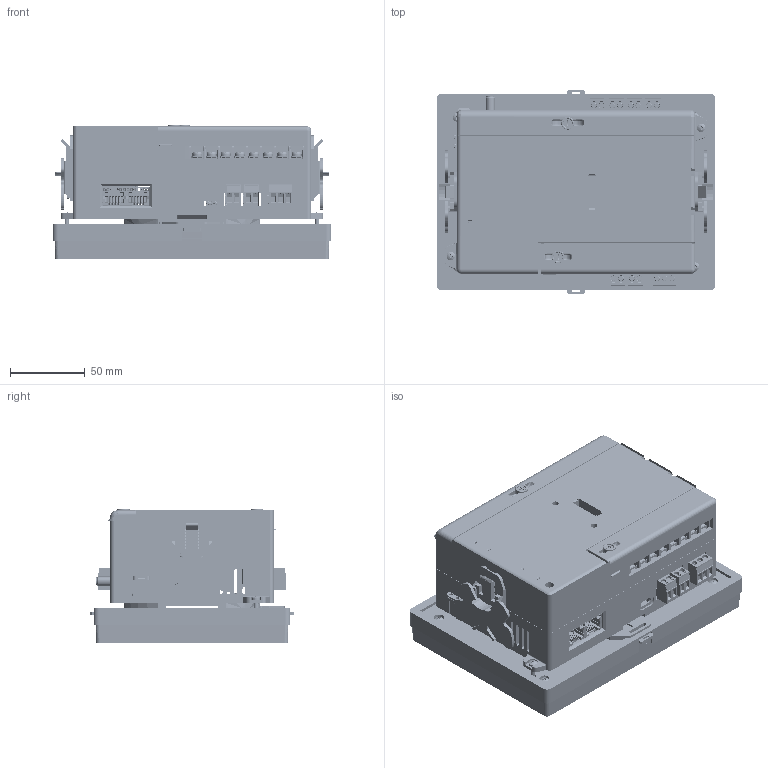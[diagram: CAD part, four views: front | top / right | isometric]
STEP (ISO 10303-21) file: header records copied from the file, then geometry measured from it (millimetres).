
FILE_DESCRIPTION(/* description */ ('','CAx-IF Rec.Pracs.---Representation and Presentation of Product Manufacturing Information (PMI)---4.0---2014-10-13'),/* implementation_level */ '2;1');
FILE_NAME(/* name */ 'acuvimIII V2 (1) v3.step',/* time_stamp */ '2025-03-13T15:38:48-04:00',/* author */ (''),/* organization */ (''),/* preprocessor_version */ 'ST-DEVELOPER v20',/* originating_system */ 'Autodesk Translation Framework v13.20.0.188',/* authorisation */ '');
FILE_SCHEMA (('AP242_MANAGED_MODEL_BASED_3D_ENGINEERING_MIM_LF { 1 0 10303 442 1 1 4 }'));
Products named in the file (34): ACUVIM-S000_ASM; AVS-01-P0001; AVS-02-P0001; AVS-03-P0001; AVS-04-P0001; 00; AVS-05-P0001; ACUVIM-S0002_ASM; AVS-09-P0001; AVS-09-P0002; AVS-11-P0001; 420000; _2000; 000; M3X80001; 0005; KZ_ASM; KZ-1; 200; AVS-08-P0001; 800; 2EDGK-5_08-03P-14-1000A_H_-T0; 2EDGK-5_08-02P-1000; 000_1; 123456; 2EDGKA-5_08-05P-1Y-3000AH; 2EDGKA-5_08-07P-1Y-3000AH; ASM0001_ASM; KZ-1_MIR; 2_MIR00; PCB318-2_ASM; _200; M3X14; Component43
Assembly tree (50 placements, depth 3):
  ACUVIM-S000_ASM
    AVS-01-P0001
    AVS-02-P0001
    AVS-03-P0001
    AVS-04-P0001
    00
    AVS-05-P0001
    ACUVIM-S0002_ASM
      AVS-09-P0001
      AVS-09-P0002
      AVS-11-P0001  x2
      420000
      000  x2
      _2000
      M3X80001  x4
      0005  x4
    KZ_ASM
      KZ-1
      200
    AVS-08-P0001
    800
    2EDGK-5_08-02P-1000  x6
    2EDGK-5_08-03P-14-1000A_H_-T0
    000_1  x3
    123456  x2
    2EDGKA-5_08-05P-1Y-3000AH
    2EDGKA-5_08-07P-1Y-3000AH
    ASM0001_ASM
      KZ-1_MIR
      2_MIR00
    PCB318-2_ASM
      _200
    M3X14  x2
    Component43
Bounding box: 187 x 136.52 x 90.2 mm (x, y, z)
Volume: 488437.1 mm3; surface area: 475133.7 mm2
Topology: 44 solids, 144 shells, 12251 faces, 33747 edges, 21857 vertices
Faces by surface type: plane 8503, cylinder 2284, bspline 664, torus 406, cone 359, sphere 35
Full cylindrical faces by diameter (mm): 0.457 x2, 1 x26, 1.4 x15, 1.5 x10, 1.8 x4, 2 x4, 2.035 x1, 2.3 x3, 2.4 x2, 2.5 x8, 2.6 x2, 2.7 x1, 2.8 x10, 3 x95, 3.5 x10, 3.783 x12, 3.95 x27, 4 x26, 4.3 x2, 4.5 x8, 4.993 x1, 5 x4, 5.1 x3, 5.2 x4, 5.3 x1, 5.5 x4, 5.6 x8, 6 x6, 6.35 x1, 6.5 x15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
Entity records: 339734 total; most frequent: CARTESIAN_POINT 92401, ORIENTED_EDGE 53495, DIRECTION 48050, EDGE_CURVE 26801, LINE 19870, VECTOR 19870, VERTEX_POINT 17347, AXIS2_PLACEMENT_3D 14090
